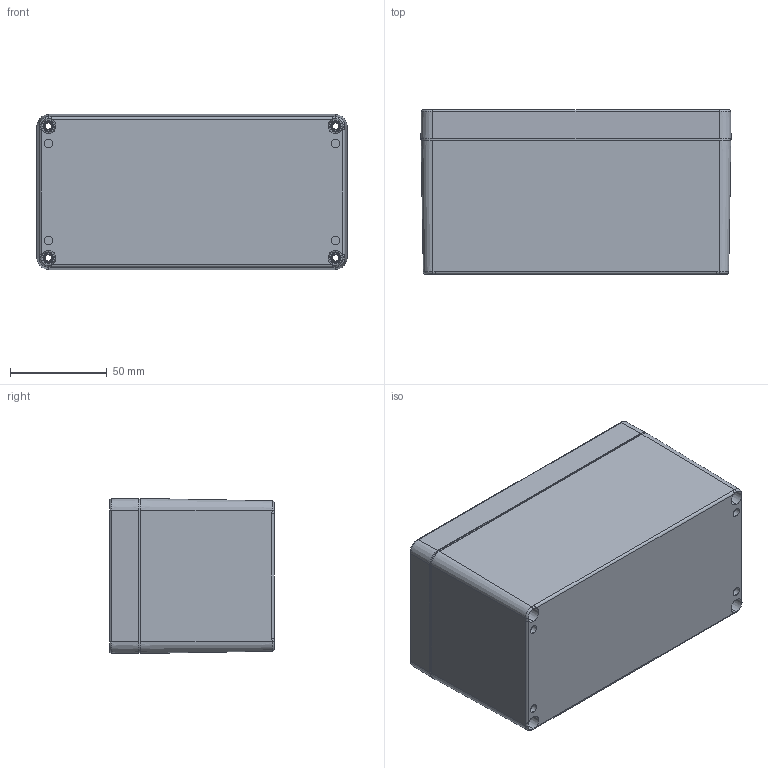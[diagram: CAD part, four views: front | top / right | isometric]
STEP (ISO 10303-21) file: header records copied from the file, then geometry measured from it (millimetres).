
FILE_DESCRIPTION (( 'STEP AP203' ), '1' );
FILE_NAME ('PE228.STEP', '2019-12-09T05:39:07', ( '' ), ( '' ), 'SwSTEP 2.0', 'SolidWorks 2020', '' );
FILE_SCHEMA (( 'CONFIG_CONTROL_DESIGN' ));
Length unit declared in the file: millimetre
Products named in the file (4): PE228
Assembly tree (3 placements, depth 2):
  PE228
    PE228
    PE228
    PE228
Bounding box: 160 x 84.9 x 80 mm (x, y, z)
Volume: 211274.7 mm3; surface area: 170373.8 mm2
Topology: 11 solids, 11 shells, 1356 faces, 3592 edges, 2314 vertices
Faces by surface type: bspline 452, cylinder 372, plane 284, cone 244, torus 4
Entity records: 47434 total; most frequent: CARTESIAN_POINT 15950, ORIENTED_EDGE 7148, DIRECTION 5664, EDGE_CURVE 3574, VERTEX_POINT 2314, AXIS2_PLACEMENT_3D 2108, EDGE_LOOP 1486, LINE 1448
